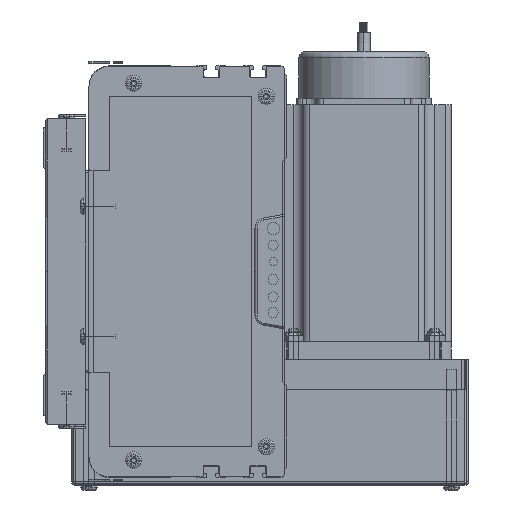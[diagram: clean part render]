
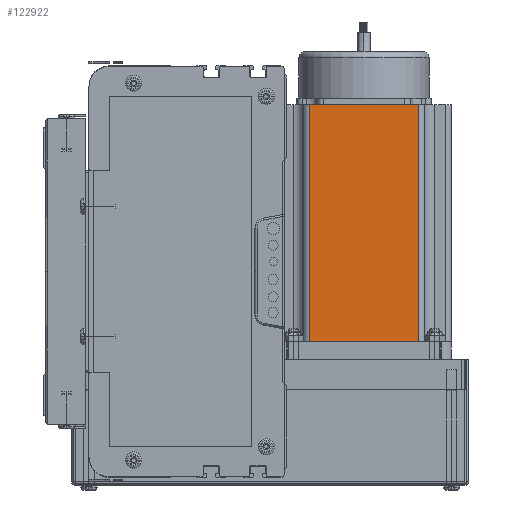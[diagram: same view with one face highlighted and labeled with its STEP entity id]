
A CAD part, left-side view. The second image highlights one B-rep face of the part: STEP entity #122922.
In plain terms, the highlighted planar face has unit normal (-1, 0, 0) as drawn and (0, -1, 0) by its records, which use the part's own axes.
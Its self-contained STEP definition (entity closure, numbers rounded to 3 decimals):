
#41712 = CARTESIAN_POINT ( 'NONE',  ( 16.16, 0., 0. ) ) ;
#41983 = CARTESIAN_POINT ( 'NONE',  ( 69.74, 0., 0. ) ) ;
#43246 = LINE ( 'NONE', #43255, #43295 ) ;
#43255 = CARTESIAN_POINT ( 'NONE',  ( 0., 0., 116.5 ) ) ;
#43295 = VECTOR ( 'NONE', #43345, 1000. ) ;
#43345 = DIRECTION ( 'NONE',  ( 1., 0., 0. ) ) ;
#45591 = DIRECTION ( 'NONE',  ( 0., 1., 0. ) ) ;
#45634 = DIRECTION ( 'NONE',  ( 0., 0., -1. ) ) ;
#45635 = VECTOR ( 'NONE', #45634, 1000. ) ;
#45637 = DIRECTION ( 'NONE',  ( 0., 0., 1. ) ) ;
#45639 = CARTESIAN_POINT ( 'NONE',  ( 16.16, 0., 116.5 ) ) ;
#45640 = LINE ( 'NONE', #45639, #45635 ) ;
#45642 = AXIS2_PLACEMENT_3D ( 'NONE', #45660, #45591, #45637 ) ;
#45648 = PLANE ( 'NONE',  #45642 ) ;
#45653 = FACE_OUTER_BOUND ( 'NONE', #119458, .T. ) ;
#45660 = CARTESIAN_POINT ( 'NONE',  ( 0., 0., 116.5 ) ) ;
#111260 = CARTESIAN_POINT ( 'NONE',  ( 16.16, 0., 116.5 ) ) ;
#112437 = CARTESIAN_POINT ( 'NONE',  ( 0., 0., 0. ) ) ;
#112438 = LINE ( 'NONE', #112437, #112502 ) ;
#112501 = DIRECTION ( 'NONE',  ( 1., 0., 0. ) ) ;
#112502 = VECTOR ( 'NONE', #112501, 1000. ) ;
#114111 = CARTESIAN_POINT ( 'NONE',  ( 69.74, 0., 116.5 ) ) ;
#114112 = DIRECTION ( 'NONE',  ( 0., 0., 1. ) ) ;
#114135 = VECTOR ( 'NONE', #114112, 1000. ) ;
#114136 = CARTESIAN_POINT ( 'NONE',  ( 69.74, 0., 116.5 ) ) ;
#114137 = LINE ( 'NONE', #114136, #114135 ) ;
#119083 = VERTEX_POINT ( 'NONE', #41712 ) ;
#119458 = EDGE_LOOP ( 'NONE', ( #124712, #122635, #121623, #124760 ) ) ;
#119464 = VERTEX_POINT ( 'NONE', #41983 ) ;
#120717 = EDGE_CURVE ( 'NONE', #123044, #124545, #43246, .T. ) ;
#121623 = ORIENTED_EDGE ( 'NONE', *, *, #120717, .F. ) ;
#122635 = ORIENTED_EDGE ( 'NONE', *, *, #124481, .T. ) ;
#122922 = ADVANCED_FACE ( 'NONE', ( #45653 ), #45648, .F. ) ;
#122925 = EDGE_CURVE ( 'NONE', #123044, #119083, #45640, .T. ) ;
#123044 = VERTEX_POINT ( 'NONE', #111260 ) ;
#123889 = EDGE_CURVE ( 'NONE', #119083, #119464, #112438, .T. ) ;
#124481 = EDGE_CURVE ( 'NONE', #119464, #124545, #114137, .T. ) ;
#124545 = VERTEX_POINT ( 'NONE', #114111 ) ;
#124712 = ORIENTED_EDGE ( 'NONE', *, *, #123889, .T. ) ;
#124760 = ORIENTED_EDGE ( 'NONE', *, *, #122925, .T. ) ;
